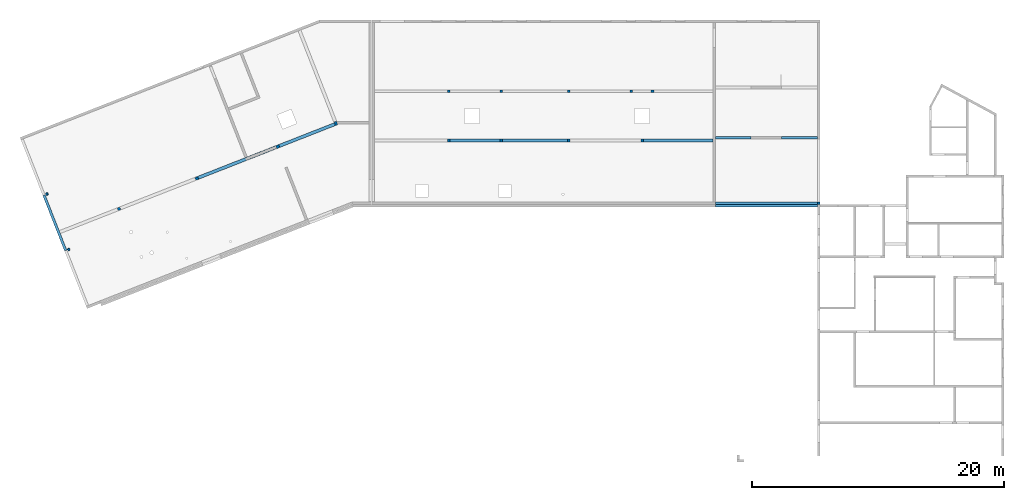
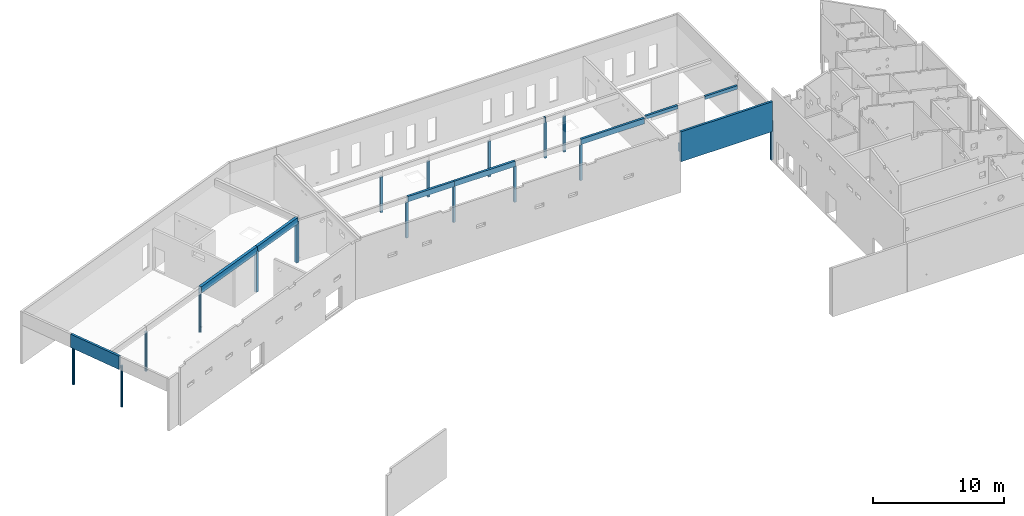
# One storey, part 1 of 13: 16 columns, 10 beams.
"""IFC2X3 building model written with IfcOpenShell, lengths in metres."""

from ifc_helpers import new_model, entity, si_unit, converted_unit, direction, frame, frame_2d, origin, origin_with_axes, place, context, subcontext, project, spatial, polyline, rectangle, circle, extrude, clip, bounded_halfspace, material, element, save


model = new_model("IFC2X3")

# Units and contexts
model_context = context("Model", 3, precision=1e-05, world=origin(), true_north=direction((-0.407059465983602, -0.913401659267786)))
body_context = subcontext(model_context, "Body", "Model", "MODEL_VIEW")
ifc_project = project(units=[si_unit("LENGTHUNIT", "METRE"), si_unit("AREAUNIT", "SQUARE_METRE"), si_unit("VOLUMEUNIT", "CUBIC_METRE"), si_unit("MASSUNIT", "GRAM", prefix="KILO"), converted_unit("PLANEANGLEUNIT", "DEGREE", entity("IfcPlaneAngleMeasure", 0.0174532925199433), si_unit("PLANEANGLEUNIT", "RADIAN"), dimensions=[0, 0, 0, 0, 0, 0, 0])], contexts=[model_context])

# Site, buildings, storey
site_placement = place(None, origin())
site = spatial("IfcSite", under=ifc_project, at=site_placement, Name="Site", CompositionType="ELEMENT")
building_1_placement = place(site_placement, origin())
building_1 = spatial("IfcBuilding", under=site, at=building_1_placement, Name="Site", CompositionType="COMPLEX")
building_2_placement = place(building_1_placement, origin())
building_2 = spatial("IfcBuilding", under=building_1, at=building_2_placement, Name="Bâtiments", CompositionType="ELEMENT")
storey_placement = place(building_2_placement, frame((0.0, 0.0, -0.14)))
storey = spatial("IfcBuildingStorey", under=building_2, at=storey_placement, Name="RDC", CompositionType="ELEMENT", Elevation=-0.14)

# Columns
ifc_material_1 = material(Name="Béton")
column_1_placement = place(storey_placement, frame((1.9995897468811, -4.49345094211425, 0.0)))
element("IfcColumn", 1, at=column_1_placement, inside=storey, material=ifc_material_1, Name="Pot101", context=body_context, shape_type="SweptSolid", body=[
    extrude(circle(Radius=0.100000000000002, at=frame_2d((0.100000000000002, 0.100000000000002), x_axis=(1.0, 0.0))), origin_with_axes(), (0.0, 0.0, 1.0), 3.84),
])
ifc_material_2 = material(Name="Béton")
column_2_placement = place(storey_placement, frame((3.72660249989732, -8.89467438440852, 0.0)))
element("IfcColumn", 2, at=column_2_placement, inside=storey, material=ifc_material_2, Name="Pot 102", context=body_context, shape_type="SweptSolid", body=[
    extrude(circle(Radius=0.100000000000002, at=frame_2d((0.100000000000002, 0.100000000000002), x_axis=(1.0, 0.0))), origin_with_axes(), (0.0, 0.0, 1.0), 3.84),
])
ifc_material_3 = material(Name="Béton")
column_3_placement = place(storey_placement, frame((33.8627990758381, 3.65172912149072, 0.0)))
element("IfcColumn", 3, at=column_3_placement, inside=storey, material=ifc_material_3, Name="Pot 107", context=body_context, shape_type="SweptSolid", body=[
    extrude(rectangle(XDim=0.2, YDim=0.199999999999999, at=frame_2d((0.0999999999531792, 0.100000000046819), x_axis=(1.0, 4.6820105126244e-10))), origin_with_axes(), (0.0, 0.0, 1.0), 3.34),
])
ifc_material_4 = material(Name="Béton")
column_4_placement = place(storey_placement, frame((38.0184622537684, 3.65172912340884, 0.0)))
element("IfcColumn", 4, at=column_4_placement, inside=storey, material=ifc_material_4, Name="Pot 108", context=body_context, shape_type="SweptSolid", body=[
    extrude(rectangle(XDim=0.200000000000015, YDim=0.199999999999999, at=frame_2d((0.0999999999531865, 0.100000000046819), x_axis=(1.0, 4.68201051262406e-10))), origin_with_axes(), (0.0, 0.0, 1.0), 3.34),
])
ifc_material_5 = material(Name="Béton")
column_5_placement = place(storey_placement, frame((43.3923208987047, 3.65172912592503, 0.0)))
element("IfcColumn", 5, at=column_5_placement, inside=storey, material=ifc_material_5, Name="Pot 109", context=body_context, shape_type="SweptSolid", body=[
    extrude(rectangle(XDim=0.200000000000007, YDim=0.199999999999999, at=frame_2d((0.0999999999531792, 0.10000000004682), x_axis=(1.0, 4.68203324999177e-10))), origin_with_axes(), (0.0, 0.0, 1.0), 3.34),
])
ifc_material_6 = material(Name="Béton")
column_6_placement = place(storey_placement, frame((48.3633166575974, 3.65172912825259, 0.0)))
element("IfcColumn", 6, at=column_6_placement, inside=storey, material=ifc_material_6, Name="Pot 110", context=body_context, shape_type="Clipping", body=[
    clip(extrude(rectangle(XDim=0.2, YDim=0.200000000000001, at=frame_2d((0.0999999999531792, 0.100000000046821), x_axis=(1.0, 4.6820105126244e-10))), origin_with_axes(), (0.0, 0.0, 1.0), 3.84), bounded_halfspace(frame((0.149999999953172, 0.100000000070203, 3.34), z_axis=(0.0, 0.0, -1.0), x_axis=(-4.68207872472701e-10, 1.0, 0.0)), True, origin_with_axes(), polyline([(0.2, 9.3640210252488e-11), (0.199999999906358, 0.200000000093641), (0.0999999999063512, 0.200000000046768), (0.0999999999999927, 4.67634890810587e-11), (0.2, 9.3640210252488e-11)]))),
])
ifc_material_7 = material(Name="Béton")
column_7_placement = place(storey_placement, frame((50.0331658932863, 3.65172912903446, 0.0)))
element("IfcColumn", 7, at=column_7_placement, inside=storey, material=ifc_material_7, Name="Pot 111", context=body_context, shape_type="SweptSolid", body=[
    extrude(rectangle(XDim=0.200000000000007, YDim=0.2, at=frame_2d((0.0999999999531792, 0.10000000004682), x_axis=(1.0, 4.68203324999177e-10))), origin_with_axes(), (0.0, 0.0, 1.0), 3.34),
])
ifc_material_8 = material(Name="Béton")
column_8_placement = place(storey_placement, frame((33.8627990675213, -0.248270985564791, 0.0)))
element("IfcColumn", 8, at=column_8_placement, inside=storey, material=ifc_material_8, Name="Pot 112", context=body_context, shape_type="SweptSolid", body=[
    extrude(rectangle(XDim=0.200000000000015, YDim=0.199999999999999, at=frame_2d((0.0999999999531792, 0.10000000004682), x_axis=(1.0, 4.68203324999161e-10))), origin_with_axes(), (0.0, 0.0, 1.0), 3.34),
])
ifc_material_9 = material(Name="Béton")
column_9_placement = place(storey_placement, frame((38.0184656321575, -0.248275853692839, 0.0)))
element("IfcColumn", 9, at=column_9_placement, inside=storey, material=ifc_material_9, Name="Pot 113", context=body_context, shape_type="Clipping", body=[
    clip(clip(extrude(rectangle(XDim=0.200000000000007, YDim=0.2, at=frame_2d((0.0999999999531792, 0.10000000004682), x_axis=(1.0, 4.68198777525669e-10))), origin_with_axes(), (0.0, 0.0, 1.0), 3.84), bounded_halfspace(frame((0.150063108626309, 0.100000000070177, 3.34), z_axis=(0.0, 0.0, -1.0), x_axis=(-4.68244252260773e-10, 1.0, 0.0)), True, origin_with_axes(), polyline([(0.200000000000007, 9.35930302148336e-11), (0.199999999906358, 0.200000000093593), (0.100126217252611, 0.200000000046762), (0.100126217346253, 4.67584868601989e-11), (0.200000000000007, 9.35930302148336e-11)]))), bounded_halfspace(frame((0.0499999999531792, 0.10000000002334, 3.34), z_axis=(0.0, 0.0, -1.0), x_axis=(-4.68207872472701e-10, 1.0, 0.0)), True, origin_with_axes(), polyline([(0.0999999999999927, 4.67271092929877e-11), (0.0999999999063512, 0.200000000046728), (-9.36342985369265e-11, 0.199999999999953), (0.0, -4.67252903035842e-14), (0.0999999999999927, 4.67271092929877e-11)]))),
])
ifc_material_10 = material(Name="Béton")
column_10_placement = place(storey_placement, frame((43.3924504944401, -0.248275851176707, 0.0)))
element("IfcColumn", 10, at=column_10_placement, inside=storey, material=ifc_material_10, Name="Pot 114", context=body_context, shape_type="SweptSolid", body=[
    extrude(rectangle(XDim=0.200000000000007, YDim=0.199999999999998, at=frame_2d((0.0999999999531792, 0.100000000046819), x_axis=(1.0, 4.68203324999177e-10))), origin_with_axes(), (0.0, 0.0, 1.0), 3.34),
])
ifc_material_11 = material(Name="Béton")
column_11_placement = place(storey_placement, frame((49.213167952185, -0.248270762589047, 0.0)))
element("IfcColumn", 11, at=column_11_placement, inside=storey, material=ifc_material_11, Name="Pot 115", context=body_context, shape_type="SweptSolid", body=[
    extrude(rectangle(XDim=0.2, YDim=0.2, at=frame_2d((0.0999999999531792, 0.10000000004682), x_axis=(1.0, 4.68203324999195e-10))), origin_with_axes(), (0.0, 0.0, 1.0), 3.34),
])
ifc_material_12 = material(Name="Béton")
column_12_placement = place(storey_placement, frame((63.2133948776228, -5.21847096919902, 0.02)))
element("IfcColumn", 12, at=column_12_placement, inside=storey, material=ifc_material_12, Name="Pot 116", context=body_context, shape_type="SweptSolid", body=[
    extrude(rectangle(XDim=0.2, YDim=0.2, at=frame_2d((0.0999999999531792, 0.10000000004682), x_axis=(1.0, 4.68203324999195e-10))), origin_with_axes(), (0.0, 0.0, 1.0), 3.62),
])
ifc_material_13 = material(Name="Béton")
column_13_placement = place(storey_placement, frame((7.69706453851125, -5.69139980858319, 0.0)))
element("IfcColumn", 13, at=column_13_placement, inside=storey, material=ifc_material_13, Name="Pot 103", context=body_context, shape_type="SweptSolid", body=[
    extrude(circle(Radius=0.124999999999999, at=frame_2d((0.124999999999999, 0.124999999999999), x_axis=(1.0, 0.0))), origin_with_axes(), (0.0, 0.0, 1.0), 3.64),
])
ifc_material_14 = material(Name="Béton")
column_14_placement = place(storey_placement, frame((13.8571937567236, -3.27487731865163, 0.0)))
element("IfcColumn", 14, at=column_14_placement, inside=storey, material=ifc_material_14, Name="Pot 104", context=body_context, shape_type="SweptSolid", body=[
    extrude(circle(Radius=0.125, at=frame_2d((0.125, 0.125), x_axis=(1.0, 0.0))), origin_with_axes(), (0.0, 0.0, 1.0), 3.64),
])
ifc_material_15 = material(Name="Béton")
column_15_placement = place(storey_placement, frame((24.9553938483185, 1.04373131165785, 0.0)))
element("IfcColumn", 15, at=column_15_placement, inside=storey, material=ifc_material_15, Name="Pot 106", context=body_context, shape_type="Clipping", body=[
    clip(extrude(rectangle(XDim=0.200000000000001, YDim=0.3, at=frame_2d((0.0715202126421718, 0.165483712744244), x_axis=(0.983833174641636, 0.179087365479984))), origin_with_axes(), (0.0, 0.0, 1.0), 3.84), bounded_halfspace(frame((0.0974348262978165, 0.137509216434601, 3.64), z_axis=(0.0, 0.0, -1.0), x_axis=(0.983833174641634, 0.17908736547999, 0.0)), True, origin_with_axes(), polyline([(0.0, 0.0), (0.107070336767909, 0.0194900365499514), (0.130337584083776, 0.0286190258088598), (0.121206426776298, 0.051891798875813), (0.188998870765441, 0.0784904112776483), (0.14927996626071, 0.296689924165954), (0.136311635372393, 0.329742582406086), (-0.0537262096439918, 0.295149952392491), (0.0, 0.0)]))),
])
ifc_material_16 = material(Name="Béton")
column_16_placement = place(storey_placement, frame((20.3441623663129, -0.788629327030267, 0.0)))
element("IfcColumn", 16, at=column_16_placement, inside=storey, material=ifc_material_16, Name="Pot 105", context=body_context, shape_type="Clipping", body=[
    clip(clip(extrude(rectangle(XDim=0.249999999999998, YDim=0.25, at=frame_2d((0.0706231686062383, 0.162056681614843), x_axis=(0.930719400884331, 0.365734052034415))), origin_with_axes(), (0.0, 0.0, 1.0), 3.84), bounded_halfspace(frame((0.128849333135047, 0.185188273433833, 3.64), z_axis=(0.0, 0.0, -1.0), x_axis=(0.930910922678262, 0.365246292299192, 0.0)), True, origin_with_axes(), polyline([(0.116379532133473, 0.046269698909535), (0.232520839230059, 0.0918381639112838), (0.141246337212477, 0.324113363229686), (0.0252506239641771, 0.278531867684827), (0.116379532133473, 0.046269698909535)]))), bounded_halfspace(frame((0.012363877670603, 0.139425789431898, 3.64), z_axis=(0.0, 0.0, -1.0), x_axis=(-0.365246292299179, 0.930910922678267, 0.0)), True, origin_with_axes(), polyline([(0.116112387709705, 0.0461173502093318), (0.0249673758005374, 0.278420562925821), (-0.0914335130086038, 0.232679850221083), (-0.000190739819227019, 0.000485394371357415), (0.116112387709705, 0.0461173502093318)]))),
])

# Beams
ifc_material_17 = material(Name="Béton")
beam_1_placement = place(storey_placement, frame((55.1124810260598, -5.21895159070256, 3.64), z_axis=(0.0, 0.0, 1.0), x_axis=(0.999999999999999, 5.57808264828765e-08, 0.0)))
element("IfcBeam", 17, at=beam_1_placement, inside=storey, material=ifc_material_17, Name="PoR 120", context=body_context, shape_type="SweptSolid", body=[
    extrude(rectangle(XDim=0.200000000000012, YDim=0.75, at=frame_2d((0.100000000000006, 0.375), x_axis=(1.0, 0.0))), frame((0.0, 0.0, 0.0), z_axis=(1.0, 0.0, 0.0), x_axis=(0.0, 1.0, 0.0)), (0.0, 0.0, 1.0), 8.10088808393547),
])
ifc_material_18 = material(Name="Béton")
beam_2_placement = place(storey_placement, frame((54.912481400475, -0.0482707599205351, 3.34), z_axis=(0.0, 0.0, 1.0), x_axis=(-1.0, -4.68216552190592e-10, 0.0)))
element("IfcBeam", 18, at=beam_2_placement, inside=storey, material=ifc_material_18, Name="Po 117", context=body_context, shape_type="SweptSolid", body=[
    extrude(rectangle(XDim=0.200000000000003, YDim=0.5, at=frame_2d((0.100000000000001, 0.25), x_axis=(1.0, 0.0))), frame((0.0, 0.0, 0.0), z_axis=(1.0, 0.0, 0.0), x_axis=(0.0, 1.0, 0.0)), (0.0, 0.0, 1.0), 5.59931344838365),
])
ifc_material_19 = material(Name="Béton")
beam_3_placement = place(storey_placement, frame((57.9607578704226, 0.151729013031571, 3.54), z_axis=(0.0, 0.0, 1.0), x_axis=(-1.0, -4.6822398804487e-10, 0.0)))
element("IfcBeam", 19, at=beam_3_placement, inside=storey, material=ifc_material_19, Name="Po 118", context=body_context, shape_type="SweptSolid", body=[
    extrude(rectangle(XDim=0.200000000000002, YDim=0.3, at=frame_2d((0.100000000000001, 0.15), x_axis=(1.0, 0.0))), frame((0.0, 0.0, 0.0), z_axis=(1.0, 0.0, 0.0), x_axis=(0.0, 1.0, 0.0)), (0.0, 0.0, 1.0), 2.84825666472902),
])
ifc_material_20 = material(Name="Béton")
beam_4_placement = place(storey_placement, frame((43.4924504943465, -0.048275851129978, 3.34), z_axis=(0.0, 0.0, 1.0), x_axis=(-1.0, -4.68210761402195e-10, 0.0)))
element("IfcBeam", 20, at=beam_4_placement, inside=storey, material=ifc_material_20, Name="Po 115", context=body_context, shape_type="SweptSolid", body=[
    extrude(rectangle(XDim=0.200000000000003, YDim=0.5, at=frame_2d((0.100000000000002, 0.25), x_axis=(1.0, 0.0))), frame((0.0, 0.0, 0.0), z_axis=(1.0, 0.0, 0.0), x_axis=(0.0, 1.0, 0.0)), (0.0, 0.0, 1.0), 5.37385864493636),
])
ifc_material_21 = material(Name="Béton")
beam_5_placement = place(storey_placement, frame((38.1184656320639, -0.048275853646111, 3.34), z_axis=(0.0, 0.0, 1.0), x_axis=(-1.0, -4.6820523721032e-10, 0.0)))
element("IfcBeam", 21, at=beam_5_placement, inside=storey, material=ifc_material_21, Name="Po 114", context=body_context, shape_type="SweptSolid", body=[
    extrude(rectangle(XDim=0.200000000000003, YDim=0.5, at=frame_2d((0.100000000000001, 0.25), x_axis=(1.0, 0.0))), frame((0.0, 0.0, 0.0), z_axis=(1.0, 0.0, 0.0), x_axis=(0.0, 1.0, 0.0)), (0.0, 0.0, 1.0), 4.09655083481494),
])
ifc_material_22 = material(Name="Béton")
beam_6_placement = place(storey_placement, frame((63.213390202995, 0.151729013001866, 3.54), z_axis=(0.0, 0.0, 1.0), x_axis=(-1.0, -4.68224579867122e-10, 0.0)))
element("IfcBeam", 22, at=beam_6_placement, inside=storey, material=ifc_material_22, Name="Po 119", context=body_context, shape_type="SweptSolid", body=[
    extrude(rectangle(XDim=0.200000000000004, YDim=0.3, at=frame_2d((0.100000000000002, 0.15), x_axis=(1.0, 0.0))), frame((0.0, 0.0, 0.0), z_axis=(1.0, 0.0, 0.0), x_axis=(0.0, 1.0, 0.0)), (0.0, 0.0, 1.0), 2.84902421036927),
])
ifc_material_23 = material(Name="Béton")
beam_7_placement = place(storey_placement, frame((55.1125457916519, -5.43894135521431, 2.84), z_axis=(0.0, 0.0, 1.0), x_axis=(0.999999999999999, 5.57808262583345e-08, 0.0)))
element("IfcBeam", 23, at=beam_7_placement, inside=storey, material=ifc_material_23, Name="PoR 121", context=body_context, shape_type="SweptSolid", body=[
    extrude(rectangle(XDim=0.200000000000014, YDim=2.8, at=frame_2d((0.100000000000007, 1.4), x_axis=(1.0, 0.0))), frame((0.0, 0.0, 0.0), z_axis=(1.0, 0.0, 0.0), x_axis=(0.0, 1.0, 0.0)), (0.0, 0.0, 1.0), 8.10088808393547),
])
ifc_material_24 = material(Name="Béton")
beam_8_placement = place(storey_placement, frame((3.68314835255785, -8.83981171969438, 3.64), z_axis=(0.0, 0.0, 1.0), x_axis=(-0.365246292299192, 0.930910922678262, 0.0)))
element("IfcBeam", 24, at=beam_8_placement, inside=storey, material=ifc_material_24, Name="PoR 123", context=body_context, shape_type="SweptSolid", body=[
    extrude(rectangle(XDim=0.200000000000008, YDim=1.24, at=frame_2d((0.100000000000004, 0.62), x_axis=(1.0, 0.0))), frame((0.0, 0.0, 0.0), z_axis=(1.0, 0.0, 0.0), x_axis=(0.0, 1.0, 0.0)), (0.0, 0.0, 1.0), 4.72666806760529),
])
ifc_material_25 = material(Name="Béton")
beam_9_placement = place(storey_placement, frame((24.9944198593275, 1.30507806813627, 3.64), z_axis=(0.0, 0.0, 1.0), x_axis=(-0.930910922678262, -0.365246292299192, 0.0)))
element("IfcBeam", 25, at=beam_9_placement, inside=storey, material=ifc_material_25, Name="PoR 104", context=body_context, shape_type="SweptSolid", body=[
    extrude(rectangle(XDim=0.25, YDim=0.6, at=frame_2d((0.125, 0.3), x_axis=(1.0, 0.0))), frame((0.0, 0.0, 0.0), z_axis=(1.0, 0.0, 0.0), x_axis=(0.0, 1.0, 0.0)), (0.0, 0.0, 1.0), 4.96845554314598),
])
ifc_material_26 = material(Name="Béton")
beam_10_placement = place(storey_placement, frame((20.3689631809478, -0.509784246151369, 3.64), z_axis=(0.0, 0.0, 1.0), x_axis=(-0.930910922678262, -0.365246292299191, 0.0)))
element("IfcBeam", 26, at=beam_10_placement, inside=storey, material=ifc_material_26, Name="PoR 103", context=body_context, shape_type="SweptSolid", body=[
    extrude(rectangle(XDim=0.250000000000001, YDim=0.6, at=frame_2d((0.125, 0.3), x_axis=(1.0, 0.0))), frame((0.0, 0.0, 0.0), z_axis=(1.0, 0.0, 0.0), x_axis=(0.0, 1.0, 0.0)), (0.0, 0.0, 1.0), 6.90979762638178),
])

save(model, "model.ifc")
